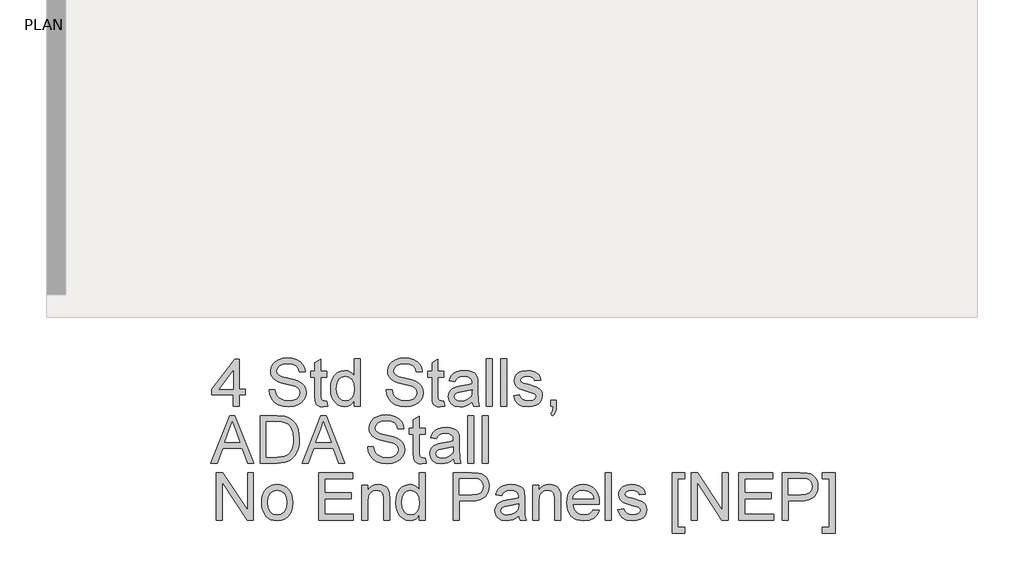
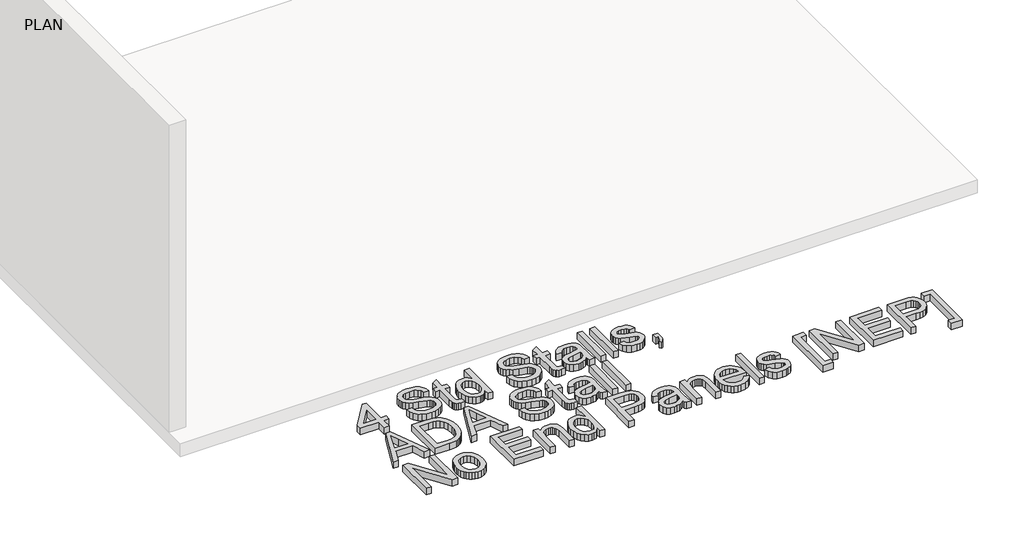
# One storey, part 21 of 21: 1 proxy.
"""IFC4 building model written with IfcOpenShell, lengths in millimetres."""

from ifc_helpers import new_model, si_unit, origin, origin_with_axes, place, context, project, spatial, polyline, outline, extrude, element, save

model = new_model("IFC4")

# Units and contexts
model_context = context("Model", 3, world=origin())
ifc_project = project(units=[si_unit("LENGTHUNIT", "METRE", prefix="MILLI")], contexts=[model_context])

# Site, building, storey
site = spatial("IfcSite", under=ifc_project)
building = spatial("IfcBuilding", under=site)
storey = spatial("IfcBuildingStorey", under=building, Name="PLAN", Elevation=0.0)

# Proxy
placement = place(None, origin())
element("IfcBuildingElementProxy", 1, Name="12\" Arial", ObjectType="12\" Arial", at=placement, inside=storey, context=model_context, shape_type="SweptSolid", body=[
    extrude(outline(polyline([(17734.3075559, 3713.0395639), (17734.3075559, 3784.4224765), (17596.3005914, 3784.4224765), (17596.3005914, 3822.4933633), (17743.8252776, 4012.8477971), (17772.3784427, 4012.8477971), (17772.3784427, 3822.4933633), (17810.4493294, 3822.4933633), (17810.4493294, 3784.4224765), (17772.3784427, 3784.4224765), (17772.3784427, 3713.0395639), (17734.3075559, 3713.0395639)]), holes=[polyline([(17734.3075559, 3822.4933633), (17734.3075559, 3940.1264548), (17643.1456279, 3822.4933633), (17734.3075559, 3822.4933633)])]), origin_with_axes(), (0.0, 0.0, 1.0), 50.8),
    extrude(outline(polyline([(17962.7328765, 3817.7345025), (18000.8037632, 3817.7345025), (18005.1722488, 3796.6077628), (18013.0727014, 3779.6264371), (18025.3974074, 3766.1491945), (18043.0386532, 3755.5347041), (18064.6022414, 3748.6473684), (18088.6939745, 3746.3515898), (18109.904366, 3748.0896894), (18128.4750768, 3753.3039881), (18143.5231153, 3761.5576373), (18154.1654897, 3772.4137886), (18160.4951464, 3784.8779144), (18162.605032, 3797.9554871), (18161.0249415, 3810.6984523), (18156.2846699, 3821.7126127), (18146.6554124, 3831.1095039), (18130.4083641, 3839.0006619), (18074.9750709, 3853.5374946), (18038.5865158, 3863.1574574), (18015.3034174, 3872.3126878), (17996.3516259, 3885.1207156), (17982.9208565, 3900.6427812), (17974.9181627, 3918.5442773), (17972.2505982, 3938.4905964), (17975.550199, 3960.788462), (17985.4490013, 3981.5805942), (18001.686755, 3999.2032508), (18024.0032099, 4011.9926893), (18050.7903914, 4019.7723114), (18080.4403252, 4022.3655188), (18112.5626359, 4019.651481), (18140.6696578, 4011.5093675), (18163.7575686, 3998.1064821), (18180.8225461, 3979.6101284), (18191.6229295, 3957.1728431), (18195.9170579, 3931.9471627), (18157.8461711, 3931.9471627), (18150.8565943, 3954.6632876), (18136.2825829, 3971.0590503), (18113.5106902, 3980.9857366), (18081.9274692, 3984.294632), (18049.6006762, 3981.0229152), (18027.4236411, 3971.2077647), (18014.597024, 3956.7638785), (18010.3214849, 3939.6059544), (18013.3515409, 3924.9761752), (18022.4417086, 3913.2091482), (18043.9309396, 3902.6876043), (18084.6043284, 3891.9429888), (18126.5789682, 3881.737463), (18151.9719523, 3872.8331882), (18173.6749602, 3859.0213382), (18188.8159452, 3841.9749499), (18197.7109253, 3821.8799164), (18200.6759187, 3798.9221307), (18197.2647821, 3775.4531392), (18187.0313724, 3753.3783453), (18170.3939487, 3734.3800805), (18147.7707704, 3720.1406765), (18120.5653296, 3711.2456964), (18090.1811185, 3708.280703), (18052.8816877, 3711.4780627), (18022.1814584, 3721.0701416), (17997.7272341, 3737.0941183), (17979.1658178, 3759.5871715), (17967.2500764, 3786.9878), (17962.7328765, 3817.7345025)])), origin_with_axes(), (0.0, 0.0, 1.0), 50.8),
    extrude(outline(polyline([(18333.9240224, 3744.7900886), (18338.6828832, 3711.9242059), (18310.2040754, 3708.280703), (18291.9307933, 3709.8607935), (18278.3048363, 3714.6010651), (18268.6755788, 3721.9066601), (18262.3923953, 3731.1827208), (18258.9347855, 3747.1137511), (18257.7822489, 3774.3842545), (18257.7822489, 3898.6351368), (18229.2290838, 3898.6351368), (18229.2290838, 3936.7060236), (18257.7822489, 3936.7060236), (18257.7822489, 3991.0611373), (18295.8531356, 4013.4426547), (18295.8531356, 3936.7060236), (18333.9240224, 3936.7060236), (18333.9240224, 3898.6351368), (18295.8531356, 3898.6351368), (18295.8531356, 3775.4996125), (18297.86078, 3755.8693115), (18304.3670351, 3748.9169132), (18317.3423666, 3746.3515898), (18333.9240224, 3744.7900886)])), origin_with_axes(), (0.0, 0.0, 1.0), 50.8),
    extrude(outline(polyline([(18510.0018736, 3713.0395639), (18510.0018736, 3748.9540918), (18498.61128, 3731.1594842), (18484.8133719, 3718.4490502), (18468.6081495, 3710.8227898), (18449.9956127, 3708.280703), (18425.3833792, 3711.9613845), (18402.8531474, 3723.0034288), (18383.7805254, 3740.63538), (18369.5411215, 3764.0857822), (18360.6740253, 3792.406581), (18357.7183266, 3824.6497221), (18360.4416591, 3856.4931933), (18368.6116565, 3885.2508407), (18382.2190242, 3909.2868058), (18401.2544676, 3926.9652303), (18424.2773159, 3937.8399709), (18449.8468983, 3941.4648844), (18468.473377, 3938.8716771), (18484.943497, 3931.0920549), (18498.9040614, 3919.1670189), (18510.0018736, 3904.1375697), (18510.0018736, 4017.6066579), (18548.0727604, 4017.6066579), (18548.0727604, 3713.0395639), (18510.0018736, 3713.0395639)]), holes=[polyline([(18395.7892134, 3824.7984365), (18400.0833417, 3790.361758), (18412.9657267, 3765.870355), (18431.685152, 3751.2312811), (18453.4904011, 3746.3515898), (18475.2863556, 3751.0082095), (18493.5317537, 3764.9780686), (18505.8843436, 3788.5214172), (18510.0018736, 3821.8985057), (18505.8099864, 3858.3893019), (18493.2343249, 3883.6893395), (18474.5241943, 3898.4678331), (18451.9288999, 3903.3939977), (18429.9005792, 3898.6630208), (18411.8503687, 3884.4700901), (18399.8045022, 3860.0902229), (18395.7892134, 3824.7984365)])]), origin_with_axes(), (0.0, 0.0, 1.0), 50.8),
    extrude(outline(polyline([(18714.63289, 3817.7345025), (18752.7037767, 3817.7345025), (18757.0722623, 3796.6077628), (18764.9727148, 3779.6264371), (18777.2974209, 3766.1491945), (18794.9386667, 3755.5347041), (18816.5022549, 3748.6473684), (18840.593988, 3746.3515898), (18861.8043795, 3748.0896894), (18880.3750903, 3753.3039881), (18895.4231288, 3761.5576373), (18906.0655032, 3772.4137886), (18912.3951599, 3784.8779144), (18914.5050454, 3797.9554871), (18912.9249549, 3810.6984523), (18908.1846834, 3821.7126127), (18898.5554259, 3831.1095039), (18882.3083775, 3839.0006619), (18826.8750844, 3853.5374946), (18790.4865293, 3863.1574574), (18767.2034309, 3872.3126878), (18748.2516393, 3885.1207156), (18734.82087, 3900.6427812), (18726.8181762, 3918.5442773), (18724.1506117, 3938.4905964), (18727.4502124, 3960.788462), (18737.3490148, 3981.5805942), (18753.5867685, 3999.2032508), (18775.9032233, 4011.9926893), (18802.6904049, 4019.7723114), (18832.3403387, 4022.3655188), (18864.4626494, 4019.651481), (18892.5696712, 4011.5093675), (18915.6575821, 3998.1064821), (18932.7225596, 3979.6101284), (18943.522943, 3957.1728431), (18947.8170714, 3931.9471627), (18909.7461846, 3931.9471627), (18902.7566077, 3954.6632876), (18888.1825964, 3971.0590503), (18865.4107037, 3980.9857366), (18833.8274827, 3984.294632), (18801.5006897, 3981.0229152), (18779.3236546, 3971.2077647), (18766.4970375, 3956.7638785), (18762.2214984, 3939.6059544), (18765.2515543, 3924.9761752), (18774.3417221, 3913.2091482), (18795.8309531, 3902.6876043), (18836.5043419, 3891.9429888), (18878.4789817, 3881.737463), (18903.8719657, 3872.8331882), (18925.5749737, 3859.0213382), (18940.7159587, 3841.9749499), (18949.6109388, 3821.8799164), (18952.5759322, 3798.9221307), (18949.1647956, 3775.4531392), (18938.9313859, 3753.3783453), (18922.2939622, 3734.3800805), (18899.6707839, 3720.1406765), (18872.4653431, 3711.2456964), (18842.081132, 3708.280703), (18804.7817012, 3711.4780627), (18774.0814719, 3721.0701416), (18749.6272475, 3737.0941183), (18731.0658313, 3759.5871715), (18719.1500899, 3786.9878), (18714.63289, 3817.7345025)])), origin_with_axes(), (0.0, 0.0, 1.0), 50.8),
    extrude(outline(polyline([(19085.8240359, 3744.7900886), (19090.5828967, 3711.9242059), (19062.1040888, 3708.280703), (19043.8308068, 3709.8607935), (19030.2048497, 3714.6010651), (19020.5755922, 3721.9066601), (19014.2924088, 3731.1827208), (19010.834799, 3747.1137511), (19009.6822623, 3774.3842545), (19009.6822623, 3898.6351368), (18981.1290973, 3898.6351368), (18981.1290973, 3936.7060236), (19009.6822623, 3936.7060236), (19009.6822623, 3991.0611373), (19047.7531491, 4013.4426547), (19047.7531491, 3936.7060236), (19085.8240359, 3936.7060236), (19085.8240359, 3898.6351368), (19047.7531491, 3898.6351368), (19047.7531491, 3775.4996125), (19049.7607935, 3755.8693115), (19056.2670486, 3748.9169132), (19069.2423801, 3746.3515898), (19085.8240359, 3744.7900886)])), origin_with_axes(), (0.0, 0.0, 1.0), 50.8),
    extrude(outline(polyline([(19266.660748, 3741.5927289), (19248.4711177, 3725.9963061), (19229.7423978, 3715.7907803), (19210.0470343, 3710.1582224), (19188.9574732, 3708.280703), (19157.141886, 3712.797903), (19133.6728945, 3726.3495028), (19119.2011243, 3746.9278581), (19114.3772009, 3772.5253244), (19116.1989523, 3788.3076403), (19121.6642066, 3802.6399907), (19130.0944542, 3814.9089288), (19140.8111858, 3824.5010077), (19167.4682422, 3836.9930174), (19200.4084821, 3842.7185219), (19239.3344767, 3848.7414552), (19266.4376764, 3855.8053892), (19266.660748, 3864.2821101), (19264.0396566, 3881.2727305), (19256.1763827, 3892.389132), (19238.5909047, 3900.6427812), (19214.0902071, 3903.3939977), (19191.4112609, 3901.5629516), (19175.5731771, 3896.0698134), (19164.7727937, 3885.9107609), (19157.2069485, 3870.0819718), (19119.1360618, 3874.8408326), (19125.744558, 3895.6608488), (19135.6061817, 3912.019433), (19149.6411034, 3924.530032), (19168.7694932, 3933.8060928), (19192.1641275, 3939.5501865), (19218.9977823, 3941.4648844), (19244.7346684, 3939.7732581), (19265.1364253, 3934.6983792), (19280.5190712, 3927.0674714), (19291.1986242, 3917.7077588), (19298.2811476, 3906.1359194), (19302.8727047, 3891.8686316), (19304.7316347, 3858.5566056), (19304.7316347, 3811.1910688), (19306.6649219, 3745.0503388), (19314.2493564, 3713.0395639), (19276.1784697, 3713.0395639), (19270.0811792, 3726.2751456), (19266.660748, 3741.5927289)]), holes=[polyline([(19266.660748, 3817.7345025), (19205.2417002, 3806.060422), (19172.4873533, 3799.8887743), (19157.6530917, 3789.8505522), (19152.4480877, 3775.2021837), (19155.282956, 3763.8812999), (19163.7875608, 3754.6052391), (19177.7760092, 3748.4150021), (19197.0624081, 3746.3515898), (19217.5106383, 3748.6287791), (19235.5794381, 3755.4603469), (19250.2278066, 3765.5264529), (19260.4147431, 3777.5072569), (19264.931943, 3789.8505522), (19266.4376764, 3806.9527084), (19266.660748, 3817.7345025)])]), origin_with_axes(), (0.0, 0.0, 1.0), 50.8),
    extrude(outline(polyline([(19357.079104, 3713.0395639), (19357.079104, 4017.6066579), (19395.1499908, 4017.6066579), (19395.1499908, 3713.0395639), (19357.079104, 3713.0395639)])), origin_with_axes(), (0.0, 0.0, 1.0), 50.8),
    extrude(outline(polyline([(19452.2563209, 3713.0395639), (19452.2563209, 4017.6066579), (19490.3272077, 4017.6066579), (19490.3272077, 3713.0395639), (19452.2563209, 3713.0395639)])), origin_with_axes(), (0.0, 0.0, 1.0), 50.8),
    extrude(outline(polyline([(19533.1569553, 3779.6636157), (19571.227842, 3784.4224765), (19577.232186, 3768.1382496), (19588.8504986, 3756.1667403), (19606.1571371, 3748.8053774), (19629.2264586, 3746.3515898), (19652.0169406, 3748.6008951), (19668.0409173, 3755.3488111), (19677.5214604, 3765.126783), (19680.6816415, 3776.4662561), (19677.5028711, 3786.1698708), (19667.9665601, 3793.5684122), (19628.7803154, 3804.4245635), (19571.4509136, 3823.0510423), (19556.9419648, 3832.410755), (19546.4297156, 3844.8005235), (19540.044291, 3859.4303028), (19537.9158161, 3875.5100474), (19539.6260317, 3890.2606571), (19544.7566786, 3903.8773195), (19552.8430242, 3915.8209448), (19563.420336, 3925.5524435), (19587.6236048, 3936.8175594), (19620.3779517, 3941.4648844), (19645.1574888, 3939.5966598), (19666.7024877, 3933.9919858), (19684.0277155, 3925.1992468), (19696.1479392, 3913.7668272), (19704.1785169, 3898.8489138), (19709.2348065, 3879.5996934), (19671.1639198, 3874.8408326), (19666.3585857, 3886.8216366), (19656.8501586, 3895.8467418), (19642.5456922, 3901.5071837), (19623.3522397, 3903.3939977), (19601.4912227, 3901.5908356), (19586.9172114, 3896.1813492), (19578.71933, 3888.3738431), (19575.9867029, 3879.3766218), (19580.5224921, 3868.2973989), (19594.7247175, 3859.8950353), (19627.516243, 3851.7901004), (19683.3956793, 3833.870015), (19698.1555836, 3825.3003476), (19709.3463423, 3813.5704992), (19716.4009817, 3798.6432912), (19718.7525282, 3780.4815449), (19715.9920171, 3761.7063517), (19707.7104839, 3744.0465166), (19694.2239466, 3728.8869423), (19675.8484234, 3717.6125317), (19653.652799, 3710.6136602), (19628.7059582, 3708.280703), (19590.3190533, 3712.7793137), (19562.3049779, 3726.2751456), (19543.604142, 3748.6194844), (19533.1569553, 3779.6636157)])), origin_with_axes(), (0.0, 0.0, 1.0), 50.8),
    extrude(outline(polyline([(19771.0999975, 3713.0395639), (19771.0999975, 3751.1104506), (19809.1708843, 3751.1104506), (19809.1708843, 3713.0395639), (19807.4606687, 3691.2621987), (19802.3300218, 3674.1135693), (19793.4815149, 3660.9616394), (19780.6177192, 3651.1743729), (19771.0999975, 3665.4509554), (19779.3536468, 3672.3475858), (19785.0791512, 3681.8838968), (19790.0610837, 3713.0395639), (19771.0999975, 3713.0395639)])), origin_with_axes(), (0.0, 0.0, 1.0), 50.8),
    extrude(outline(polyline([(17589.3853718, 3346.9868995), (17710.9593949, 3651.5539936), (17743.3791344, 3651.5539936), (17864.9531576, 3346.9868995), (17824.725912, 3346.9868995), (17789.8523849, 3442.1641164), (17664.4117873, 3442.1641164), (17629.6126173, 3346.9868995), (17589.3853718, 3346.9868995)]), holes=[polyline([(17678.390941, 3480.2350032), (17775.9475883, 3480.2350032), (17748.5097813, 3555.1127043), (17727.1692647, 3613.4831068), (17708.2081785, 3561.656138), (17678.390941, 3480.2350032)])]), origin_with_axes(), (0.0, 0.0, 1.0), 50.8),
    extrude(outline(polyline([(17905.6265463, 3346.9868995), (17905.6265463, 3651.5539936), (18010.6932709, 3651.5539936), (18065.0483846, 3647.1669188), (18089.3260107, 3638.7087872), (18109.8114195, 3625.380259), (18130.8730966, 3602.1808123), (18145.8746618, 3573.3302185), (18154.8532938, 3539.3861564), (18157.8461711, 3500.906305), (18155.8199374, 3468.2170206), (18149.7412362, 3439.4500786), (18140.4837648, 3414.9586756), (18128.92122, 3395.0960084), (18115.6112811, 3379.4159337), (18101.111627, 3367.4723083), (18084.4649087, 3358.6145068), (18064.7137772, 3352.1919036), (18015.7495606, 3346.9868995), (17905.6265463, 3346.9868995)]), holes=[polyline([(17943.6974331, 3385.0577863), (18011.0650569, 3385.0577863), (18038.9304179, 3386.4333945), (18060.0664522, 3390.5602191), (18076.0160718, 3397.1965993), (18088.3221885, 3406.1008741), (18101.5484755, 3422.5802887), (18111.4844565, 3443.9115107), (18117.7025774, 3470.1874864), (18119.7752844, 3501.5011626), (18115.7135223, 3542.9924806), (18103.528236, 3573.6276473), (18085.5244988, 3594.6707351), (18064.0073838, 3607.3858164), (18042.1091882, 3611.9587842), (18010.0240561, 3613.4831068), (17943.6974331, 3613.4831068), (17943.6974331, 3385.0577863)])]), origin_with_axes(), (0.0, 0.0, 1.0), 50.8),
    extrude(outline(polyline([(18174.7252557, 3346.9868995), (18296.2992788, 3651.5539936), (18328.7190183, 3651.5539936), (18450.2930415, 3346.9868995), (18410.0657959, 3346.9868995), (18375.1922688, 3442.1641164), (18249.7516712, 3442.1641164), (18214.9525013, 3346.9868995), (18174.7252557, 3346.9868995)]), holes=[polyline([(18263.7308249, 3480.2350032), (18361.2874722, 3480.2350032), (18333.8496652, 3555.1127043), (18312.5091486, 3613.4831068), (18293.5480624, 3561.656138), (18263.7308249, 3480.2350032)])]), origin_with_axes(), (0.0, 0.0, 1.0), 50.8),
    extrude(outline(polyline([(18595.6613688, 3451.6818381), (18633.7322556, 3451.6818381), (18638.1007411, 3430.5550985), (18646.0011937, 3413.5737728), (18658.3258997, 3400.0965301), (18675.9671456, 3389.4820397), (18697.5307338, 3382.594704), (18721.6224668, 3380.2989255), (18742.8328583, 3382.037025), (18761.4035692, 3387.2513237), (18776.4516077, 3395.504973), (18787.093982, 3406.3611243), (18793.4236388, 3418.8252501), (18795.5335243, 3431.9028227), (18793.9534338, 3444.645788), (18789.2131623, 3455.6599484), (18779.5839048, 3465.0568396), (18763.3368564, 3472.9479975), (18707.9035633, 3487.4848303), (18671.5150082, 3497.1047931), (18648.2319097, 3506.2600234), (18629.2801182, 3519.0680513), (18615.8493488, 3534.5901169), (18607.8466551, 3552.491613), (18605.1790905, 3572.4379321), (18608.4786913, 3594.7357976), (18618.3774937, 3615.5279299), (18634.6152474, 3633.1505864), (18656.9317022, 3645.940025), (18683.7188838, 3653.7196471), (18713.3688176, 3656.3128545), (18745.4911283, 3653.5988166), (18773.5981501, 3645.4567031), (18796.6860609, 3632.0538177), (18813.7510385, 3613.557464), (18824.5514219, 3591.1201787), (18828.8455502, 3565.8944984), (18790.7746635, 3565.8944984), (18783.7850866, 3588.6106232), (18769.2110753, 3605.006386), (18746.4391826, 3614.9330723), (18714.8559616, 3618.2419677), (18682.5291686, 3614.9702509), (18660.3521335, 3605.1551004), (18647.5255163, 3590.7112141), (18643.2499773, 3573.5532901), (18646.2800332, 3558.9235108), (18655.370201, 3547.1564838), (18676.859432, 3536.6349399), (18717.5328208, 3525.8903244), (18759.5074606, 3515.6847986), (18784.9004446, 3506.7805238), (18806.6034526, 3492.9686738), (18821.7444376, 3475.9222856), (18830.6394177, 3455.8272521), (18833.6044111, 3432.8694663), (18830.1932745, 3409.4004749), (18819.9598648, 3387.3256809), (18803.3224411, 3368.3274161), (18780.6992628, 3354.0880122), (18753.493822, 3345.1930321), (18723.1096108, 3342.2280387), (18685.81018, 3345.4253983), (18655.1099508, 3355.0174772), (18630.6557264, 3371.041454), (18612.0943102, 3393.5345072), (18600.1785688, 3420.9351356), (18595.6613688, 3451.6818381)])), origin_with_axes(), (0.0, 0.0, 1.0), 50.8),
    extrude(outline(polyline([(18966.8525147, 3378.7374242), (18971.6113756, 3345.8715415), (18943.1325677, 3342.2280387), (18924.8592856, 3343.8081292), (18911.2333286, 3348.5484008), (18901.6040711, 3355.8539957), (18895.3208877, 3365.1300565), (18891.8632778, 3381.0610868), (18890.7107412, 3408.3315901), (18890.7107412, 3532.5824725), (18862.1575762, 3532.5824725), (18862.1575762, 3570.6533592), (18890.7107412, 3570.6533592), (18890.7107412, 3625.008473), (18928.781628, 3647.3899904), (18928.781628, 3570.6533592), (18966.8525147, 3570.6533592), (18966.8525147, 3532.5824725), (18928.781628, 3532.5824725), (18928.781628, 3409.4469481), (18930.7892724, 3389.8166471), (18937.2955275, 3382.8642489), (18950.270859, 3380.2989255), (18966.8525147, 3378.7374242)])), origin_with_axes(), (0.0, 0.0, 1.0), 50.8),
    extrude(outline(polyline([(19147.6892268, 3375.5400646), (19129.4995966, 3359.9436418), (19110.7708767, 3349.738116), (19091.0755132, 3344.105558), (19069.9859521, 3342.2280387), (19038.1703649, 3346.7452386), (19014.7013734, 3360.2968385), (19000.2296032, 3380.8751938), (18995.4056798, 3406.4726601), (18997.2274312, 3422.2549759), (19002.6926855, 3436.5873264), (19011.1229331, 3448.8562645), (19021.8396647, 3458.4483434), (19048.4967211, 3470.9403531), (19081.436961, 3476.6658576), (19120.3629556, 3482.6887908), (19147.4661552, 3489.7527249), (19147.6892268, 3498.2294458), (19145.0681355, 3515.2200661), (19137.2048615, 3526.3364676), (19119.6193836, 3534.5901169), (19095.1186859, 3537.3413333), (19072.4397397, 3535.5102873), (19056.601656, 3530.0171491), (19045.8012726, 3519.8580965), (19038.2354274, 3504.0293074), (19000.1645407, 3508.7881683), (19006.7730369, 3529.6081845), (19016.6346606, 3545.9667686), (19030.6695822, 3558.4773676), (19049.7979721, 3567.7534284), (19073.1926064, 3573.4975222), (19100.0262612, 3575.4122201), (19125.7631473, 3573.7205938), (19146.1649042, 3568.6457148), (19161.5475501, 3561.0148071), (19172.2271031, 3551.6550945), (19179.3096264, 3540.0832551), (19183.9011836, 3525.8159672), (19185.7601136, 3492.5039413), (19185.7601136, 3445.1384045), (19187.6934008, 3378.9976744), (19195.2778353, 3346.9868995), (19157.2069485, 3346.9868995), (19151.1096581, 3360.2224813), (19147.6892268, 3375.5400646)]), holes=[polyline([(19147.6892268, 3451.6818381), (19086.2701791, 3440.0077576), (19053.5158322, 3433.83611), (19038.6815706, 3423.7978879), (19033.4765666, 3409.1495193), (19036.3114348, 3397.8286355), (19044.8160397, 3388.5525747), (19058.8044881, 3382.3623378), (19078.090887, 3380.2989255), (19098.5391172, 3382.5761147), (19116.607917, 3389.4076825), (19131.2562855, 3399.4737886), (19141.443222, 3411.4545925), (19145.9604219, 3423.7978879), (19147.4661552, 3440.900044), (19147.6892268, 3451.6818381)])]), origin_with_axes(), (0.0, 0.0, 1.0), 50.8),
    extrude(outline(polyline([(19238.1075829, 3346.9868995), (19238.1075829, 3651.5539936), (19276.1784697, 3651.5539936), (19276.1784697, 3346.9868995), (19238.1075829, 3346.9868995)])), origin_with_axes(), (0.0, 0.0, 1.0), 50.8),
    extrude(outline(polyline([(19333.2847998, 3346.9868995), (19333.2847998, 3651.5539936), (19371.3556866, 3651.5539936), (19371.3556866, 3346.9868995), (19333.2847998, 3346.9868995)])), origin_with_axes(), (0.0, 0.0, 1.0), 50.8),
    extrude(outline(polyline([(17624.8537565, 2980.9342352), (17624.8537565, 3285.5013293), (17665.6015025, 3285.5013293), (17824.725912, 3044.212213), (17824.725912, 3285.5013293), (17862.7967987, 3285.5013293), (17862.7967987, 2980.9342352), (17822.0490528, 2980.9342352), (17662.9246433, 3222.2977087), (17662.9246433, 2980.9342352), (17624.8537565, 2980.9342352)])), origin_with_axes(), (0.0, 0.0, 1.0), 50.8),
    extrude(outline(polyline([(17915.144268, 3092.7674651), (17917.203033, 3121.734242), (17923.379328, 3146.6950249), (17933.673153, 3167.6498135), (17948.0845079, 3184.5986079), (17962.5934567, 3195.4315226), (17978.6081388, 3203.1693188), (17996.1285542, 3207.8119965), (18015.154703, 3209.3595558), (18036.1582885, 3207.4750654), (18055.1495823, 3201.8215945), (18072.1285844, 3192.399143), (18087.0952947, 3179.2077109), (18099.3107885, 3162.6934413), (18108.0361413, 3143.3024776), (18113.271353, 3121.0348196), (18115.0164235, 3095.8904675), (18111.9305997, 3057.4292054), (18102.6731282, 3028.1510576), (18087.5135539, 3006.2249781), (18066.7214217, 2989.8199207), (18042.0255364, 2979.5865109), (18015.154703, 2976.1753744), (17993.844394, 2978.0528937), (17974.6765018, 2983.6854516), (17957.6510265, 2993.0730482), (17942.7679681, 3006.2156834), (17930.6825993, 3022.8902857), (17922.0501931, 3042.8737834), (17916.8707493, 3066.1661765), (17915.144268, 3092.7674651)]), holes=[polyline([(17953.2151548, 3092.8418223), (17957.6208189, 3058.3865544), (17970.8378114, 3033.8393835), (17990.7283625, 3019.1445417), (18015.154703, 3014.2462611), (18039.4695076, 3019.1724257), (18059.3228802, 3033.9509193), (18072.5398726, 3058.8234029), (18076.9455368, 3094.0315375), (18072.5119887, 3127.4829831), (18059.2113444, 3151.6955466), (18039.3300879, 3166.3903884), (18015.154703, 3171.288669), (17990.7283625, 3166.4089777), (17970.8378114, 3151.7699038), (17957.6208189, 3127.2785008), (17953.2151548, 3092.8418223)])]), origin_with_axes(), (0.0, 0.0, 1.0), 50.8),
    extrude(outline(polyline([(18281.5765531, 2980.9342352), (18281.5765531, 3285.5013293), (18500.4841519, 3285.5013293), (18500.4841519, 3247.4304425), (18319.6474398, 3247.4304425), (18319.6474398, 3157.0120865), (18490.9664303, 3157.0120865), (18490.9664303, 3118.9411997), (18319.6474398, 3118.9411997), (18319.6474398, 3019.005122), (18505.2430128, 3019.005122), (18505.2430128, 2980.9342352), (18281.5765531, 2980.9342352)])), origin_with_axes(), (0.0, 0.0, 1.0), 50.8),
    extrude(outline(polyline([(18557.5904821, 2980.9342352), (18557.5904821, 3204.6006949), (18595.6613688, 3204.6006949), (18595.6613688, 3173.3706706), (18608.8876559, 3189.1158079), (18624.7722129, 3200.3623345), (18643.3150398, 3207.1102504), (18664.5161367, 3209.3595558), (18683.2820352, 3207.547099), (18700.4678432, 3202.1097287), (18714.8001937, 3193.7259543), (18725.0057195, 3183.0742853), (18736.4195498, 3155.0787992), (18738.4271942, 3118.2719849), (18738.4271942, 2980.9342352), (18700.3563074, 2980.9342352), (18700.3563074, 3113.141338), (18695.9692326, 3146.82515), (18689.8998261, 3156.8540774), (18680.4657562, 3164.6336995), (18668.3734165, 3169.6249266), (18654.3292002, 3171.288669), (18632.0313346, 3167.5522197), (18613.0237752, 3156.3428717), (18605.4277224, 3147.1922886), (18600.0019704, 3134.6863369), (18595.6613688, 3099.6083275), (18595.6613688, 2980.9342352), (18557.5904821, 2980.9342352)])), origin_with_axes(), (0.0, 0.0, 1.0), 50.8),
    extrude(outline(polyline([(18928.781628, 2980.9342352), (18928.781628, 3016.8487631), (18917.3910343, 2999.0541555), (18903.5931262, 2986.3437215), (18887.3879038, 2978.7174612), (18868.775367, 2976.1753744), (18844.1631336, 2979.8560558), (18821.6329018, 2990.8981001), (18802.5602798, 3008.5300513), (18788.3208759, 3031.9804535), (18779.4537797, 3060.3012523), (18776.4980809, 3092.5443935), (18779.2214134, 3124.3878646), (18787.3914109, 3153.145512), (18800.9987786, 3177.1814771), (18820.034222, 3194.8599016), (18843.0570702, 3205.7346422), (18868.6266526, 3209.3595558), (18887.2531314, 3206.7663484), (18903.7232513, 3198.9867263), (18917.6838158, 3187.0616902), (18928.781628, 3172.032241), (18928.781628, 3285.5013293), (18966.8525147, 3285.5013293), (18966.8525147, 2980.9342352), (18928.781628, 2980.9342352)]), holes=[polyline([(18814.5689677, 3092.6931079), (18818.863096, 3058.2564293), (18831.7454811, 3033.7650263), (18850.4649063, 3019.1259524), (18872.2701554, 3014.2462611), (18894.0661099, 3018.9028808), (18912.311508, 3032.8727399), (18924.664098, 3056.4160886), (18928.781628, 3089.793177), (18924.5897408, 3126.2839733), (18912.0140792, 3151.5840108), (18893.3039486, 3166.3625044), (18870.7086542, 3171.288669), (18848.6803335, 3166.5576921), (18830.6301231, 3152.3647614), (18818.5842565, 3127.9848942), (18814.5689677, 3092.6931079)])]), origin_with_axes(), (0.0, 0.0, 1.0), 50.8),
    extrude(outline(polyline([(19147.6892268, 2980.9342352), (19147.6892268, 3285.5013293), (19260.5634575, 3285.5013293), (19306.0700643, 3282.6013984), (19326.3602855, 3277.1826174), (19343.0627717, 3268.3619945), (19356.5121304, 3255.7398597), (19367.0429689, 3238.916543), (19373.8466528, 3219.0724651), (19376.1145474, 3197.3880464), (19374.5832538, 3178.6918578), (19369.989373, 3161.4921078), (19362.332905, 3145.7887965), (19351.6138498, 3131.5819238), (19336.898095, 3119.8056022), (19317.2515284, 3111.3939438), (19292.6741499, 3106.3469488), (19263.1659595, 3104.6646172), (19185.7601136, 3104.6646172), (19185.7601136, 2980.9342352), (19147.6892268, 2980.9342352)]), holes=[polyline([(19185.7601136, 3142.7355039), (19265.3966756, 3142.7355039), (19299.1548447, 3146.2302924), (19321.4620049, 3156.7146577), (19333.8982467, 3173.5379743), (19338.0436606, 3196.0496168), (19335.5991677, 3213.151773), (19328.2656887, 3227.5770699), (19316.9540996, 3238.4332212), (19302.5752759, 3244.8279405), (19264.5043891, 3247.4304425), (19185.7601136, 3247.4304425), (19185.7601136, 3142.7355039)])]), origin_with_axes(), (0.0, 0.0, 1.0), 50.8),
    extrude(outline(polyline([(19566.4689812, 3009.4874003), (19548.279351, 2993.8909774), (19529.550631, 2983.6854516), (19509.8552675, 2978.0528937), (19488.7657065, 2976.1753744), (19456.9501192, 2980.6925743), (19433.4811277, 2994.2441741), (19419.0093575, 3014.8225294), (19414.1854342, 3040.4199958), (19416.0071856, 3056.2023116), (19421.4724398, 3070.534662), (19429.9026875, 3082.8036002), (19440.619419, 3092.395679), (19467.2764755, 3104.8876888), (19500.2167154, 3110.6131932), (19539.1427099, 3116.6361265), (19566.2459096, 3123.7000605), (19566.4689812, 3132.1767814), (19563.8478899, 3149.1674018), (19555.9846159, 3160.2838033), (19538.3991379, 3168.5374526), (19513.8984403, 3171.288669), (19491.2194941, 3169.4576229), (19475.3814103, 3163.9644847), (19464.5810269, 3153.8054322), (19457.0151818, 3137.9766431), (19418.944295, 3142.7355039), (19425.5527912, 3163.5555201), (19435.414415, 3179.9141043), (19449.4493366, 3192.4247033), (19468.5777265, 3201.7007641), (19491.9723607, 3207.4448578), (19518.8060155, 3209.3595558), (19544.5429016, 3207.6679294), (19564.9446586, 3202.5930505), (19580.3273045, 3194.9621428), (19591.0068574, 3185.6024301), (19598.0893808, 3174.0305908), (19602.6809379, 3159.7633029), (19604.5398679, 3126.451277), (19604.5398679, 3079.0857401), (19606.4731552, 3012.9450101), (19614.0575896, 2980.9342352), (19575.9867029, 2980.9342352), (19569.8894124, 2994.1698169), (19566.4689812, 3009.4874003)]), holes=[polyline([(19566.4689812, 3085.6291738), (19505.0499334, 3073.9550933), (19472.2955865, 3067.7834456), (19457.461325, 3057.7452235), (19452.2563209, 3043.096855), (19455.0911892, 3031.7759712), (19463.595794, 3022.4999104), (19477.5842424, 3016.3096734), (19496.8706413, 3014.2462611), (19517.3188715, 3016.5234504), (19535.3876713, 3023.3550182), (19550.0360398, 3033.4211242), (19560.2229763, 3045.4019282), (19564.7401763, 3057.7452235), (19566.2459096, 3074.8473797), (19566.4689812, 3085.6291738)])]), origin_with_axes(), (0.0, 0.0, 1.0), 50.8),
    extrude(outline(polyline([(19656.8873372, 2980.9342352), (19656.8873372, 3204.6006949), (19694.958224, 3204.6006949), (19694.958224, 3173.3706706), (19708.1845111, 3189.1158079), (19724.0690681, 3200.3623345), (19742.611895, 3207.1102504), (19763.8129918, 3209.3595558), (19782.5788904, 3207.547099), (19799.7646984, 3202.1097287), (19814.0970488, 3193.7259543), (19824.3025746, 3183.0742853), (19835.7164049, 3155.0787992), (19837.7240493, 3118.2719849), (19837.7240493, 2980.9342352), (19799.6531626, 2980.9342352), (19799.6531626, 3113.141338), (19795.2660877, 3146.82515), (19789.1966812, 3156.8540774), (19779.7626114, 3164.6336995), (19767.6702716, 3169.6249266), (19753.6260554, 3171.288669), (19731.3281898, 3167.5522197), (19712.3206304, 3156.3428717), (19704.7245776, 3147.1922886), (19699.2988256, 3134.6863369), (19694.958224, 3099.6083275), (19694.958224, 2980.9342352), (19656.8873372, 2980.9342352)])), origin_with_axes(), (0.0, 0.0, 1.0), 50.8),
    extrude(outline(polyline([(20046.6677833, 3047.558287), (20083.9950981, 3042.7994262), (20070.5457394, 3014.673815), (20049.0843923, 2993.6493165), (20020.0943787, 2980.5438599), (19984.0590203, 2976.1753744), (19960.4366671, 2978.0598647), (19939.388932, 2983.7133356), (19920.915815, 2993.1357871), (19905.017316, 3006.3272192), (19892.2325248, 3022.9204933), (19883.1005311, 3042.5484706), (19877.6213348, 3065.2111512), (19875.7949361, 3090.908535), (19877.6399241, 3117.4772923), (19883.1748883, 3140.8951632), (19892.3998285, 3161.1621477), (19905.3147448, 3178.2782459), (19921.1714178, 3191.8763189), (19939.2216283, 3201.5892283), (19959.4653762, 3207.4169739), (19981.9026615, 3209.3595558), (20003.6172878, 3207.4216212), (20023.2545597, 3201.6078176), (20040.8144774, 3191.9181449), (20056.2970408, 3178.3526031), (20068.9354413, 3161.2736835), (20077.9628702, 3141.0438776), (20083.3793275, 3117.6631853), (20085.1848133, 3091.1316066), (20084.9617417, 3080.8703129), (19913.8658229, 3080.8703129), (19920.4557298, 3052.3729158), (19935.7640185, 3031.4227745), (19957.8574017, 3018.5403895), (19984.8025923, 3014.2462611), (20005.0649295, 3016.2353162), (20022.1299071, 3022.2024816), (20035.997525, 3032.5195432), (20046.6677833, 3047.558287)]), holes=[polyline([(19913.8658229, 3118.9411997), (20047.1139265, 3118.9411997), (20041.9646904, 3139.0548225), (20031.8707004, 3153.4429408), (20009.675076, 3166.8272369), (19981.7539471, 3171.288669), (19956.0914182, 3167.728818), (19934.8717321, 3157.0492651), (19920.1211224, 3140.4025468), (19913.8658229, 3118.9411997)])]), origin_with_axes(), (0.0, 0.0, 1.0), 50.8),
    extrude(outline(polyline([(20123.2557, 2980.9342352), (20123.2557, 3285.5013293), (20161.3265868, 3285.5013293), (20161.3265868, 2980.9342352), (20123.2557, 2980.9342352)])), origin_with_axes(), (0.0, 0.0, 1.0), 50.8),
    extrude(outline(polyline([(20204.1563344, 3047.558287), (20242.2272212, 3052.3171479), (20248.2315651, 3036.0329209), (20259.8498777, 3024.0614116), (20277.1565162, 3016.7000487), (20300.2258377, 3014.2462611), (20323.0163197, 3016.4955664), (20339.0402965, 3023.2434824), (20348.5208396, 3033.0214543), (20351.6810206, 3044.3609274), (20348.5022503, 3054.0645421), (20338.9659393, 3061.4630836), (20299.7796945, 3072.3192349), (20242.4502928, 3090.9457136), (20227.941344, 3100.3054263), (20217.4290947, 3112.6951948), (20211.0436701, 3127.3249741), (20208.9151952, 3143.4047187), (20210.6254109, 3158.1553284), (20215.7560577, 3171.7719908), (20223.8424033, 3183.7156162), (20234.4197151, 3193.4471148), (20258.6229839, 3204.7122307), (20291.3773308, 3209.3595558), (20316.1568679, 3207.4913311), (20337.7018669, 3201.8866571), (20355.0270946, 3193.0939181), (20367.1473183, 3181.6614985), (20375.177896, 3166.7435851), (20380.2341857, 3147.4943648), (20342.1632989, 3142.7355039), (20337.3579648, 3154.7163079), (20327.8495378, 3163.7414131), (20313.5450713, 3169.401855), (20294.3516188, 3171.288669), (20272.4906018, 3169.4855069), (20257.9165905, 3164.0760205), (20249.7187091, 3156.2685145), (20246.986082, 3147.2712932), (20251.5218712, 3136.1920703), (20265.7240966, 3127.7897066), (20298.5156221, 3119.6847717), (20354.3950584, 3101.7646863), (20369.1549627, 3093.195019), (20380.3457215, 3081.4651705), (20387.4003609, 3066.5379625), (20389.7519073, 3048.3762162), (20386.9913963, 3029.6010231), (20378.709863, 3011.9411879), (20365.2233258, 2996.7816136), (20346.8478025, 2985.507203), (20324.6521781, 2978.5083315), (20299.7053373, 2976.1753744), (20261.3184324, 2980.673985), (20233.3043571, 2994.1698169), (20214.6035211, 3016.5141557), (20204.1563344, 3047.558287)])), origin_with_axes(), (0.0, 0.0, 1.0), 50.8),
    extrude(outline(polyline([(20551.5531761, 2895.27474), (20551.5531761, 3285.5013293), (20632.4538104, 3285.5013293), (20632.4538104, 3247.4304425), (20589.6240628, 3247.4304425), (20589.6240628, 2933.3456268), (20632.4538104, 2933.3456268), (20632.4538104, 2895.27474), (20551.5531761, 2895.27474)])), origin_with_axes(), (0.0, 0.0, 1.0), 50.8),
    extrude(outline(polyline([(20675.283558, 2980.9342352), (20675.283558, 3285.5013293), (20716.031304, 3285.5013293), (20875.1557135, 3044.212213), (20875.1557135, 3285.5013293), (20913.2266003, 3285.5013293), (20913.2266003, 2980.9342352), (20872.4788543, 2980.9342352), (20713.3544448, 3222.2977087), (20713.3544448, 2980.9342352), (20675.283558, 2980.9342352)])), origin_with_axes(), (0.0, 0.0, 1.0), 50.8),
    extrude(outline(polyline([(20979.8506521, 2980.9342352), (20979.8506521, 3285.5013293), (21198.758251, 3285.5013293), (21198.758251, 3247.4304425), (21017.9215389, 3247.4304425), (21017.9215389, 3157.0120865), (21189.2405293, 3157.0120865), (21189.2405293, 3118.9411997), (21017.9215389, 3118.9411997), (21017.9215389, 3019.005122), (21203.5171118, 3019.005122), (21203.5171118, 2980.9342352), (20979.8506521, 2980.9342352)])), origin_with_axes(), (0.0, 0.0, 1.0), 50.8),
    extrude(outline(polyline([(21260.6234419, 2980.9342352), (21260.6234419, 3285.5013293), (21373.4976726, 3285.5013293), (21419.0042794, 3282.6013984), (21439.2945006, 3277.1826174), (21455.9969868, 3268.3619945), (21469.4463455, 3255.7398597), (21479.977184, 3238.916543), (21486.7808679, 3219.0724651), (21489.0487625, 3197.3880464), (21487.5174689, 3178.6918578), (21482.9235881, 3161.4921078), (21475.2671201, 3145.7887965), (21464.5480649, 3131.5819238), (21449.8323101, 3119.8056022), (21430.1857435, 3111.3939438), (21405.608365, 3106.3469488), (21376.1001746, 3104.6646172), (21298.6943287, 3104.6646172), (21298.6943287, 2980.9342352), (21260.6234419, 2980.9342352)]), holes=[polyline([(21298.6943287, 3142.7355039), (21378.3308907, 3142.7355039), (21412.0890598, 3146.2302924), (21434.39622, 3156.7146577), (21446.8324618, 3173.5379743), (21450.9778757, 3196.0496168), (21448.5333828, 3213.151773), (21441.1999038, 3227.5770699), (21429.8883147, 3238.4332212), (21415.509491, 3244.8279405), (21377.4386042, 3247.4304425), (21298.6943287, 3247.4304425), (21298.6943287, 3142.7355039)])]), origin_with_axes(), (0.0, 0.0, 1.0), 50.8),
    extrude(outline(polyline([(21598.5025619, 2895.27474), (21517.6019276, 2895.27474), (21517.6019276, 2933.3456268), (21560.4316752, 2933.3456268), (21560.4316752, 3247.4304425), (21517.6019276, 3247.4304425), (21517.6019276, 3285.5013293), (21598.5025619, 3285.5013293), (21598.5025619, 2895.27474)])), origin_with_axes(), (0.0, 0.0, 1.0), 50.8),
])

save(model, "model.ifc")
